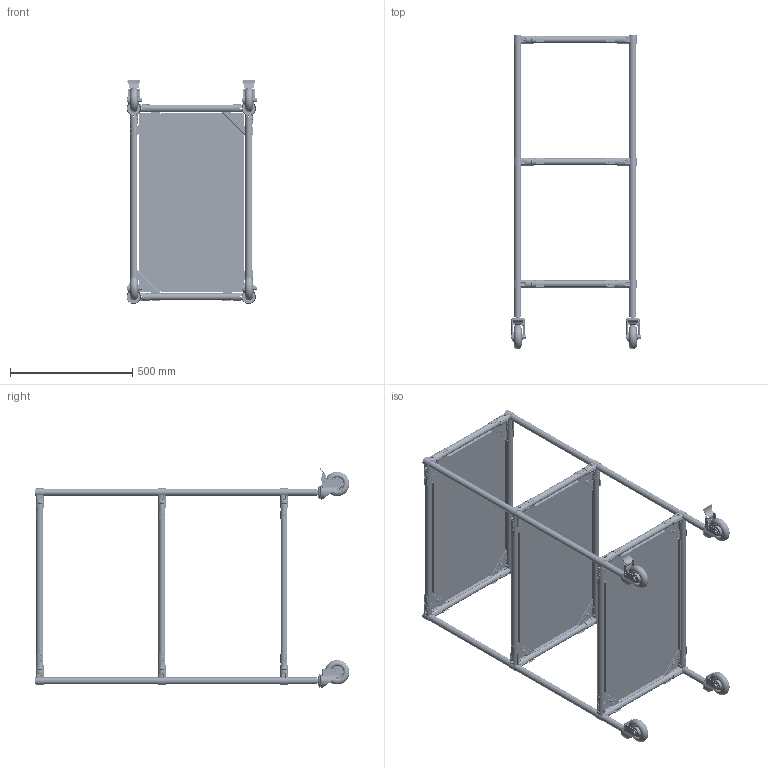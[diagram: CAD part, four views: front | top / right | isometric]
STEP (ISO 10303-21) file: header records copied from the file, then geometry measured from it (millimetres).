
FILE_DESCRIPTION (( 'STEP AP214' ), '1' );
FILE_NAME ('RSI-MST-800x500x1300-3.STEP', '2026-01-29T11:51:51', ( '' ), ( '' ), 'SwSTEP 2.0', 'SolidWorks 2022', '' );
FILE_SCHEMA (( 'AUTOMOTIVE_DESIGN' ));
Length unit declared in the file: millimetre
Products named in the file (19): Гайка DIN934_M6; D-3; FHJ-404; fh-1010b; Polka RSI-MST-800x500x900-2; D-2; Винт полусфера ISO 7380_М6х16; F-170; Зеркально отразитьfh-1010b; F-180-1; Шайба DIN125_6; PR-28X3-A_L=1150 мм; PR-28X3-A_L=400 мм; FHJ-405; RSI-MST-800x500x1300-3; PR-28X3-A_L=700 мм; df-2b_Кронштейн соединительный DF2B; f-110-x.stp; Шайба DIN7980_D8 DIN 7980
Assembly tree (105 placements, depth 3):
  RSI-MST-800x500x1300-3
    PR-28X3-A_L=700 мм  x6
    df-2b_Кронштейн соединительный DF2B  x12
      D-2
      D-3
      F-180-1
      F-170
    PR-28X3-A_L=1150 мм  x4
    PR-28X3-A_L=400 мм  x6
    f-110-x.stp  x4
    FHJ-405  x2
    FHJ-404  x2
    fh-1010b  x6
    Зеркально отразитьfh-1010b  x6
    Polka RSI-MST-800x500x900-2  x3
    Винт полусфера ISO 7380_М6х16  x12
    Шайба DIN125_6  x12
    Шайба DIN7980_D8 DIN 7980  x12
    Гайка DIN934_M6  x12
Bounding box: 535 x 1287.4 x 916 mm (x, y, z)
Volume: 6316995 mm3; surface area: 4621514.6 mm2
Topology: 161 solids, 161 shells, 9274 faces, 23664 edges, 15092 vertices
Faces by surface type: cylinder 3774, plane 2572, bspline 1312, cone 752, torus 632, sphere 232
Entity records: 83657 total; most frequent: CARTESIAN_POINT 47300, ORIENTED_EDGE 7132, DIRECTION 6137, EDGE_CURVE 3566, AXIS2_PLACEMENT_3D 2438, VERTEX_POINT 2261, EDGE_LOOP 1541, FACE_OUTER_BOUND 1414
